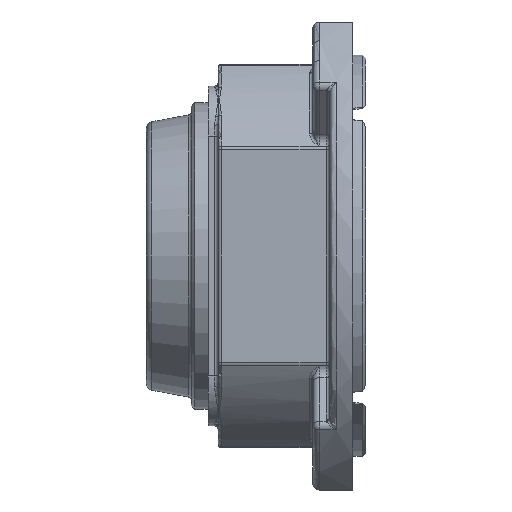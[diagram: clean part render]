
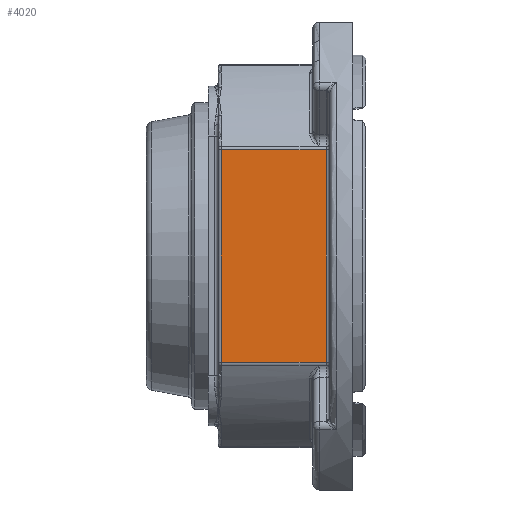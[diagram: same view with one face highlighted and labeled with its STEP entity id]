
A CAD part, front view. The second image highlights one B-rep face of the part: STEP entity #4020.
In plain terms, the highlighted planar face has unit normal (0, -1, 0).
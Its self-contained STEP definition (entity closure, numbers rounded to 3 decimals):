
#395 = EDGE_CURVE ( 'NONE', #1101, #1102, #6440, .T. ) ;
#396 = EDGE_CURVE ( 'NONE', #1102, #1115, #6438, .T. ) ;
#397 = EDGE_CURVE ( 'NONE', #1115, #1116, #6443, .T. ) ;
#398 = EDGE_CURVE ( 'NONE', #1116, #1101, #6445, .T. ) ;
#884 = ORIENTED_EDGE ( 'NONE', *, *, #395, .T. ) ;
#885 = ORIENTED_EDGE ( 'NONE', *, *, #396, .T. ) ;
#886 = ORIENTED_EDGE ( 'NONE', *, *, #397, .T. ) ;
#887 = ORIENTED_EDGE ( 'NONE', *, *, #398, .T. ) ;
#1101 = VERTEX_POINT ( 'NONE', #10489 ) ;
#1102 = VERTEX_POINT ( 'NONE', #10490 ) ;
#1115 = VERTEX_POINT ( 'NONE', #10503 ) ;
#1116 = VERTEX_POINT ( 'NONE', #10504 ) ;
#4020 = ADVANCED_FACE ( 'NONE', ( #16121 ), #15621, .T. ) ;
#4345 = EDGE_LOOP ( 'NONE', ( #884, #885, #886, #887 ) ) ;
#6438 = LINE ( 'NONE', #7640, #6444 ) ;
#6440 = LINE ( 'NONE', #7661, #6441 ) ;
#6441 = VECTOR ( 'NONE', #7662, 1000. ) ;
#6443 = LINE ( 'NONE', #7664, #6446 ) ;
#6444 = VECTOR ( 'NONE', #7663, 1000. ) ;
#6445 = LINE ( 'NONE', #7666, #6448 ) ;
#6446 = VECTOR ( 'NONE', #7665, 1000. ) ;
#6448 = VECTOR ( 'NONE', #7667, 1000. ) ;
#7640 = CARTESIAN_POINT ( 'NONE',  ( -12., -57.5, -31.871 ) ) ;
#7661 = CARTESIAN_POINT ( 'NONE',  ( -39.448, -57.5, -32.4 ) ) ;
#7662 = DIRECTION ( 'NONE',  ( 0., 0., -1. ) ) ;
#7663 = DIRECTION ( 'NONE',  ( 1., 0., 0. ) ) ;
#7664 = CARTESIAN_POINT ( 'NONE',  ( -8., -57.5, 32.4 ) ) ;
#7665 = DIRECTION ( 'NONE',  ( 0., 0., 1. ) ) ;
#7666 = CARTESIAN_POINT ( 'NONE',  ( -12., -57.5, 31.871 ) ) ;
#7667 = DIRECTION ( 'NONE',  ( -1., 0., 0. ) ) ;
#10489 = CARTESIAN_POINT ( 'NONE',  ( -39.448, -57.5, 31.871 ) ) ;
#10490 = CARTESIAN_POINT ( 'NONE',  ( -39.448, -57.5, -31.871 ) ) ;
#10503 = CARTESIAN_POINT ( 'NONE',  ( -8., -57.5, -31.871 ) ) ;
#10504 = CARTESIAN_POINT ( 'NONE',  ( -8., -57.5, 31.871 ) ) ;
#14007 = AXIS2_PLACEMENT_3D ( 'NONE', #15616, #15624, #15625 ) ;
#15616 = CARTESIAN_POINT ( 'NONE',  ( -12., -57.5, -32.4 ) ) ;
#15621 = PLANE ( 'NONE',  #14007 ) ;
#15624 = DIRECTION ( 'NONE',  ( 0., -1., 0. ) ) ;
#15625 = DIRECTION ( 'NONE',  ( 0., 0., -1. ) ) ;
#16121 = FACE_OUTER_BOUND ( 'NONE', #4345, .T. ) ;
